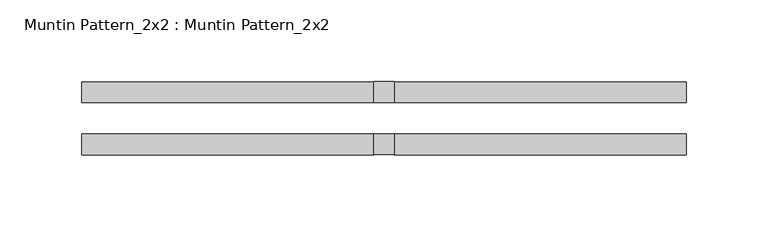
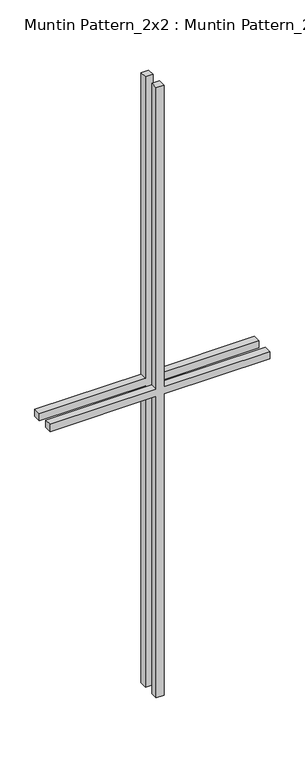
"""IFC4 building model written with IfcOpenShell, lengths in millimetres: proxy geometry, Muntin Pattern_2x2 : Muntin Pattern_2x2."""

from ifc_helpers import new_model, si_unit, frame, origin, place, context, project, spatial, polyline, outline, extrude, source, transform, mapped, element, save


def muntin_pattern_2x2_muntin_pattern_2x2_2ad6a7fc(model_context):
    return source(origin(), model_context, "Body", "SweptSolid", [
        extrude(outline(polyline([(546.1, -6.35), (546.1, -184.15), (533.4, -184.15), (533.4, -6.35), (0.0, -6.35), (0.0, 6.35), (533.4, 6.35), (533.4, 184.15), (546.1, 184.15), (546.1, 6.35), (1079.5, 6.35), (1079.5, -6.35), (546.1, -6.35)])), frame((0.0, 9.525, 0.0), z_axis=(0.0, 1.0, 0.0), x_axis=(0.0, 0.0, 1.0)), (0.0, 0.0, 1.0), 12.7),
        extrude(outline(polyline([(546.1, -6.35), (546.1, -184.15), (533.4, -184.15), (533.4, -6.35), (0.0, -6.35), (0.0, 6.35), (533.4, 6.35), (533.4, 184.15), (546.1, 184.15), (546.1, 6.35), (1079.5, 6.35), (1079.5, -6.35), (546.1, -6.35)])), frame((0.0, -22.225, 0.0), z_axis=(0.0, 1.0, 0.0), x_axis=(0.0, 0.0, 1.0)), (0.0, 0.0, 1.0), 12.7),
    ])


if __name__ == "__main__":
    model = new_model("IFC4")
    model_context = context("Model", 3, world=origin())
    ifc_project = project(units=[si_unit("LENGTHUNIT", "METRE", prefix="MILLI")], contexts=[model_context])
    site = spatial("IfcSite", under=ifc_project)
    building = spatial("IfcBuilding", under=site)
    placement = place(None, origin())
    muntin_pattern_2x2_muntin_pattern_2x2_shape = muntin_pattern_2x2_muntin_pattern_2x2_2ad6a7fc(model_context)
    element("IfcBuildingElementProxy", 1, Name="Muntin Pattern_2x2 : Muntin Pattern_2x2", ObjectType="Muntin Pattern_2x2 : Muntin Pattern_2x2", at=placement, inside=building, context=model_context, shape_type="MappedRepresentation", body=[
        mapped(muntin_pattern_2x2_muntin_pattern_2x2_shape, transform((0.0, 0.0, 0.0), x_axis=(1.0, 0.0, 0.0), y_axis=(0.0, 1.0, 0.0), z_axis=(0.0, 0.0, 1.0))),
    ])
    save(model, "model.ifc")
